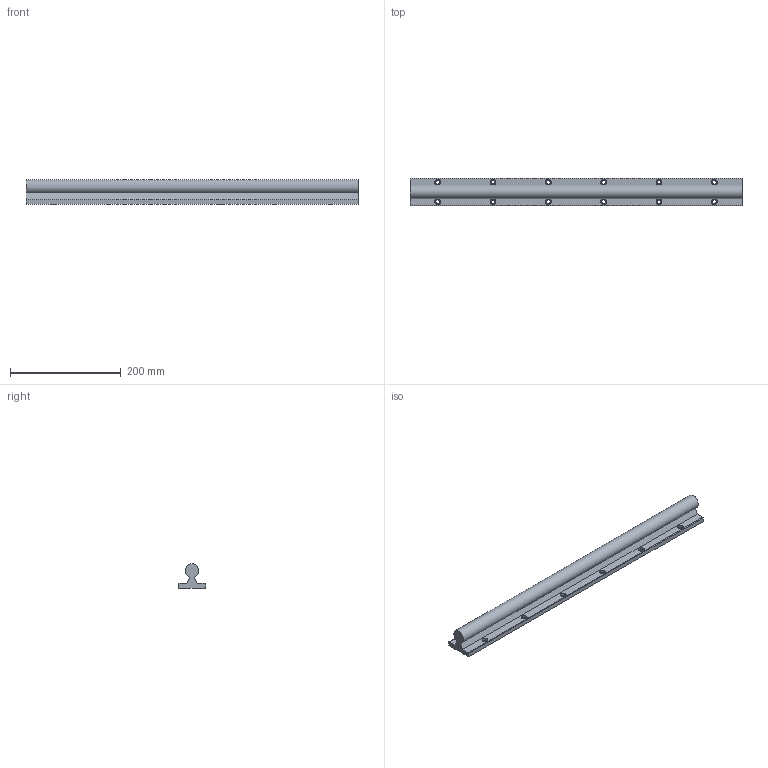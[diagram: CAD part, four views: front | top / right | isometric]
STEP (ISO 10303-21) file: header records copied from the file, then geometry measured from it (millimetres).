
FILE_DESCRIPTION((''),'2;1');
FILE_NAME('D:\製品 (図面)\カタログ用3D\GC25R.stp','2010-06-07T14:42:48',('Tsuchiya'),(''),'Autodesk Inventor 10','Autodesk Inventor 10','');
FILE_SCHEMA(('AUTOMOTIVE_DESIGN { 1 0 10303 214 1 1 1 1 }'));
Length unit declared in the file: millimetre
Products named in the file (1): GC25R
Bounding box: 600 x 50 x 44.5 mm (x, y, z)
Volume: 645904.9 mm3; surface area: 119227.9 mm2
Topology: 1 solids, 1 shells, 53 faces, 117 edges, 78 vertices
Faces by surface type: bspline 36, plane 11, cylinder 6
Entity records: 1754 total; most frequent: CARTESIAN_POINT 669, DIRECTION 189, ORIENTED_EDGE 186, EDGE_LOOP 113, EDGE_CURVE 93, AXIS2_PLACEMENT_3D 78, VERTEX_POINT 78, CIRCLE 60
